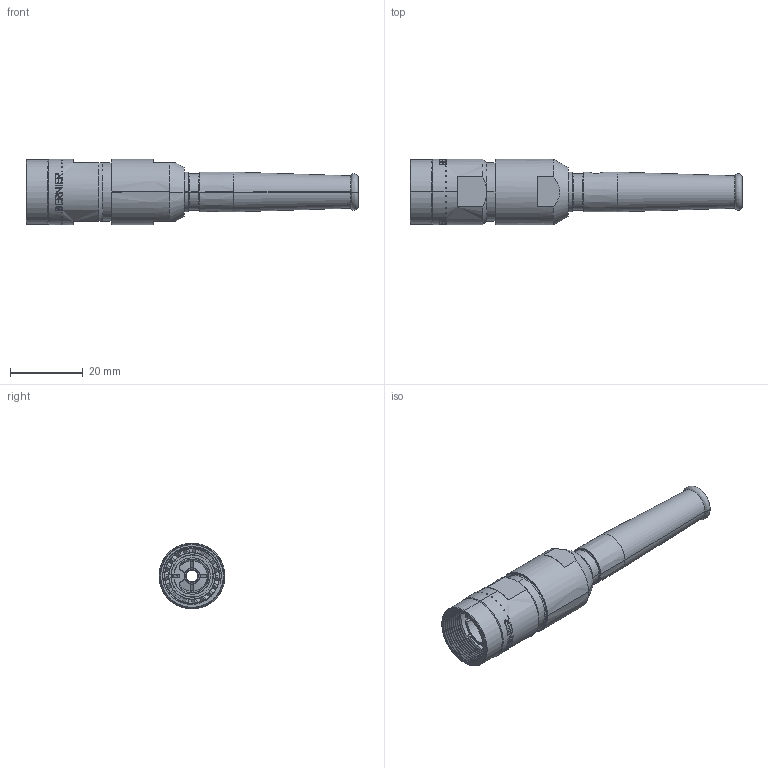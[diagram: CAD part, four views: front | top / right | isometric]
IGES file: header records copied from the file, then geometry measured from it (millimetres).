
Start section: SolidWorks IGES file using analytic representation for surfaces
Global section: file name: C:\Users\JGC\OneDrive - BERNIER\Bureau\CMARA7_defeature.IGS; native system: SolidWorks 2019; preprocessor: SolidWorks 2019; author: JGC; date: 201214.115613; units: millimetre
Bounding box: 91.02 x 18 x 18 mm (x, y, z)
Surface area: 7494.1 mm2 (no closed solid volume)
Topology: 0 solids, 0 shells, 597 faces, 5919 edges, 5919 vertices
Faces by surface type: bspline 376, revolution 221
